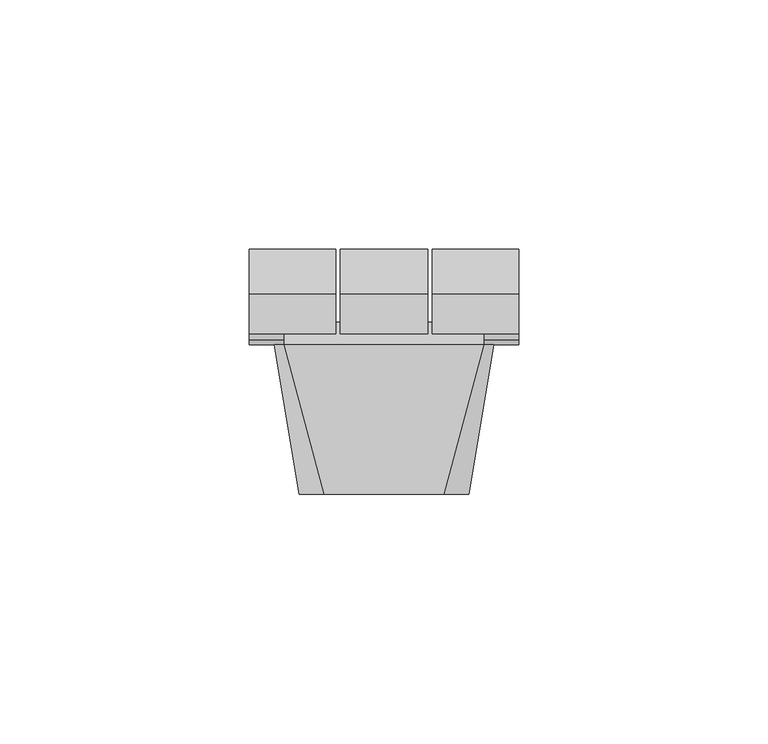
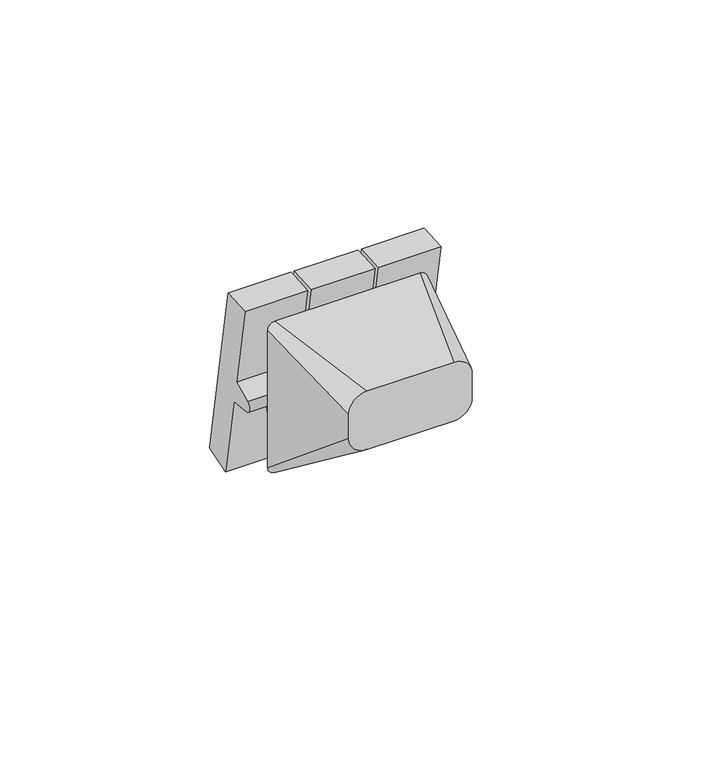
"""IFC4 building model written with IfcOpenShell, lengths in millimetres: proxy geometry, IEK_Brite_Механизм выключателя : В3_ВС10-3-0-БрА."""

from ifc_helpers import new_model, si_unit, point, frame, frame_2d, origin, place, context, project, spatial, polyline, circle_curve, trimmed, segment, composite_curve, outline, extrude, source, transform, mapped, element, save
from ifc_brep_helpers import plane_surface, spline_surface, advanced_brep


def electrical_fixtures_cdf9dca8(model_context):
    return source(origin(), model_context, "Body", "SolidModel", [
        advanced_brep(
        [(-12.0, -30.0, 17.0), (-17.0, -30.0, 12.0), (-17.0, -30.0, 5.0), (-12.0, -30.0, 0.0), (12.0, -30.0, 0.0), (17.0, -30.0, 5.0), (17.0, -30.0, 12.0), (12.0, -30.0, 17.0), (20.0, 0.0, 22.0), (22.0, 0.0, 20.0), (22.0, 0.0, -20.0), (20.0, 0.0, -22.0), (-20.0, 0.0, -22.0), (-22.0, 0.0, -20.0), (-22.0, 0.0, 20.0), (-20.0, 0.0, 22.0), (20.0, 4.4942733, -3.0892494), (-20.0, 4.4942733, -3.0892494)],
        [
            (0, 1, circle_curve(frame((-12.0, -30.0, 12.0), z_axis=(0.0, -1.0, 0.0), x_axis=(1.0, 0.0, 0.0)), 5.0)),
            (1, 2),
            (2, 3, circle_curve(frame((-12.0, -30.0, 5.0), z_axis=(0.0, -1.0, 0.0), x_axis=(1.0, 0.0, 0.0)), 5.0)),
            (3, 4),
            (4, 5, circle_curve(frame((12.0, -30.0, 5.0), z_axis=(0.0, -1.0, 0.0), x_axis=(1.0, 0.0, 0.0)), 5.0)),
            (5, 6),
            (6, 7, circle_curve(frame((12.0, -30.0, 12.0), z_axis=(0.0, -1.0, 0.0), x_axis=(1.0, 0.0, 0.0)), 5.0)),
            (7, 0),
            (8, 9, circle_curve(frame((20.0, 0.0, 20.0), z_axis=(0.0, 1.0, 0.0), x_axis=(1.0, 0.0, 0.0)), 2.0)),
            (9, 10),
            (10, 11, circle_curve(frame((20.0, 0.0, -20.0), z_axis=(0.0, 1.0, 0.0), x_axis=(1.0, 0.0, 0.0)), 2.0)),
            (11, 8),
            (12, 13, circle_curve(frame((-20.0, 0.0, -20.0), z_axis=(0.0, 1.0, 0.0), x_axis=(1.0, 0.0, 0.0)), 2.0)),
            (13, 14),
            (14, 15, circle_curve(frame((-20.0, 0.0, 20.0), z_axis=(0.0, 1.0, 0.0), x_axis=(1.0, 0.0, 0.0)), 2.0)),
            (15, 12),
            (7, 8),
            (8, 15),
            (15, 0),
            (6, 9),
            (5, 10),
            (4, 11),
            (3, 12),
            (12, 11),
            (2, 13),
            (1, 14),
            (11, 16),
            (16, 8),
            (15, 17),
            (17, 12),
            (17, 16),
        ],
        [
            plane_surface(frame((0.0, -30.0, 8.5), z_axis=(0.0, -1.0, 0.0), x_axis=(-1.0, 0.0, 0.0))),
            plane_surface(frame((0.0, 0.0, 0.0), z_axis=(0.0, 1.0, 0.0), x_axis=(-1.0, 0.0, 0.0))),
            plane_surface(frame((0.0, 0.0, 22.0), z_axis=(0.0, -0.16439898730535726, 0.9863939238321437), x_axis=(-1.0, 0.0, 0.0))),
            spline_surface(2, 1, [[(22.0, 0.0, 20.0), (17.0, -30.0, 12.0)], [(22.0, 0.0, 22.0), (17.0, -30.0, 17.0)], [(20.0, 0.0, 22.0), (12.0, -30.0, 17.0)]], [3, 3], [2, 2], [0.0, 1.0], [0.0, 1.0], weights=[[1.0, 1.0], [0.7071067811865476, 0.7071067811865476], [1.0, 1.0]]),
            plane_surface(frame((22.0, 0.0, 0.0), z_axis=(0.9863939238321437, -0.1643989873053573, 0.0), x_axis=(0.0, 0.0, 1.0))),
            spline_surface(2, 1, [[(20.0, 0.0, -22.0), (12.0, -30.0, 0.0)], [(22.0, 0.0, -22.0), (17.0, -30.0, 0.0)], [(22.0, 0.0, -20.0), (17.0, -30.0, 5.0)]], [3, 3], [2, 2], [0.0, 1.0], [0.0, 1.0], weights=[[1.0, 1.0], [0.7071067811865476, 0.7071067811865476], [1.0, 1.0]]),
            plane_surface(frame((0.0, 0.0, -22.0), z_axis=(0.0, -0.591363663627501, -0.8064049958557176), x_axis=(1.0, 0.0, 0.0))),
            spline_surface(2, 1, [[(-22.0, 0.0, -20.0), (-17.0, -30.0, 5.0)], [(-22.0, 0.0, -22.0), (-17.0, -30.0, 0.0)], [(-20.0, 0.0, -22.0), (-12.0, -30.0, 0.0)]], [3, 3], [2, 2], [0.0, 1.0], [0.0, 1.0], weights=[[1.0, 1.0], [0.7071067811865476, 0.7071067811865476], [1.0, 1.0]]),
            plane_surface(frame((-22.0, 0.0, 0.0), z_axis=(-0.9863939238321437, -0.1643989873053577, 0.0), x_axis=(0.0, 0.0, -1.0))),
            spline_surface(2, 1, [[(-20.0, 0.0, 22.0), (-12.0, -30.0, 17.0)], [(-22.0, 0.0, 22.0), (-17.0, -30.0, 17.0)], [(-22.0, 0.0, 20.0), (-17.0, -30.0, 12.0)]], [3, 3], [2, 2], [0.0, 1.0], [0.0, 1.0], weights=[[1.0, 1.0], [0.7071067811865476, 0.7071067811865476], [1.0, 1.0]]),
            plane_surface(frame((20.0, 0.0, -22.0), z_axis=(1.0, 0.0, 0.0), x_axis=(0.0, 0.23121707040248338, 0.9729021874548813))),
            plane_surface(frame((-20.0, 0.0, -22.0), z_axis=(-1.0, 0.0, 0.0), x_axis=(0.0, -0.23121707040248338, -0.9729021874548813))),
            plane_surface(frame((20.0, 0.0, -22.0), z_axis=(0.0, 0.9729021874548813, -0.23121707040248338), x_axis=(-1.0, 0.0, 0.0))),
            plane_surface(frame((20.0, 4.4942733, -3.0892494), z_axis=(0.0, 0.9843320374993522, 0.17632481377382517), x_axis=(-1.0, 0.0, 0.0))),
        ],
        [
            (0, [[1, 2, 3, 4, 5, 6, 7, 8]]),
            (1, [[9, 10, 11, 12]]),
            (1, [[13, 14, 15, 16]]),
            (2, [[-8, 17, 18, 19]]),
            (3, [[-7, 20, -9, -17]]),
            (4, [[-6, 21, -10, -20]]),
            (5, [[-5, 22, -11, -21]]),
            (6, [[-4, 23, 24, -22]]),
            (7, [[-3, 25, -13, -23]]),
            (8, [[-2, 26, -14, -25]]),
            (9, [[-1, -19, -15, -26]]),
            (10, [[27, 28, -12]]),
            (11, [[29, 30, -16]]),
            (12, [[-27, -24, -30, 31]]),
            (13, [[-28, -31, -29, -18]]),
        ],
    ),
        extrude(outline(composite_curve([segment(polyline([(19.1247035, -24.1237652), (11.4236286, -26.3320129), (7.3756597, -3.3748404), (1.5972872, -2.8692983)]), True, "CONTINUOUS"), segment(trimmed(circle_curve(frame_2d((1.7530049, -1.0894363)), 1.7866608), [point((1.5972872, -2.8692983))], [point((0.9979294, 0.5298284))], False, "CARTESIAN"), True, "CONTINUOUS"), segment(polyline([(0.9979294, 0.5298284), (6.2549179, 2.9812023), (2.206949, 25.9383748), (10.1988574, 26.4972235), (19.1247035, -24.1237652)]), True, "CONTINUOUS")], self_intersect=False)), frame((-27.0, 0.0, 0.0), z_axis=(1.0, 0.0, 0.0), x_axis=(0.0, 1.0, 0.0)), (0.0, 0.0, 1.0), 17.3),
        extrude(outline(composite_curve([segment(polyline([(19.1247035, -24.1237652), (11.4236286, -26.3320129), (7.3756597, -3.3748404), (1.5972872, -2.8692983)]), True, "CONTINUOUS"), segment(trimmed(circle_curve(frame_2d((1.7530049, -1.0894363)), 1.7866608), [point((1.5972872, -2.8692983))], [point((0.9979294, 0.5298284))], False, "CARTESIAN"), True, "CONTINUOUS"), segment(polyline([(0.9979294, 0.5298284), (6.2549179, 2.9812023), (2.206949, 25.9383748), (10.1988574, 26.4972235), (19.1247035, -24.1237652)]), True, "CONTINUOUS")], self_intersect=False)), frame((9.7, 0.0, 0.0), z_axis=(1.0, 0.0, 0.0), x_axis=(0.0, 1.0, 0.0)), (0.0, 0.0, 1.0), 17.3),
        extrude(outline(composite_curve([segment(polyline([(19.1247035, -24.1237652), (11.4236286, -26.3320129), (7.3756597, -3.3748404), (1.5972872, -2.8692983)]), True, "CONTINUOUS"), segment(trimmed(circle_curve(frame_2d((1.7530049, -1.0894363)), 1.7866608), [point((1.5972872, -2.8692983))], [point((0.9979294, 0.5298284))], False, "CARTESIAN"), True, "CONTINUOUS"), segment(polyline([(0.9979294, 0.5298284), (6.2549179, 2.9812023), (2.206949, 25.9383748), (10.1988574, 26.4972235), (19.1247035, -24.1237652)]), True, "CONTINUOUS")], self_intersect=False)), frame((-8.8, 0.0, 0.0), z_axis=(1.0, 0.0, 0.0), x_axis=(0.0, 1.0, 0.0)), (0.0, 0.0, 1.0), 17.6),
    ])


if __name__ == "__main__":
    model = new_model("IFC4")
    model_context = context("Model", 3, world=origin())
    ifc_project = project(units=[si_unit("LENGTHUNIT", "METRE", prefix="MILLI")], contexts=[model_context])
    site = spatial("IfcSite", under=ifc_project)
    building = spatial("IfcBuilding", under=site)
    placement = place(None, origin())
    electrical_fixtures_shape = electrical_fixtures_cdf9dca8(model_context)
    element("IfcBuildingElementProxy", 1, Name="IEK_Brite_Механизм выключателя : В3_ВС10-3-0-БрА", ObjectType="IEK_Brite_Механизм выключателя : В3_ВС10-3-0-БрА", at=placement, inside=building, context=model_context, shape_type="MappedRepresentation", body=[
        mapped(electrical_fixtures_shape, transform((0.0, 0.0, 0.0), x_axis=(1.0, 0.0, 0.0), y_axis=(0.0, 1.0, 0.0), z_axis=(0.0, 0.0, 1.0))),
    ])
    save(model, "model.ifc")
